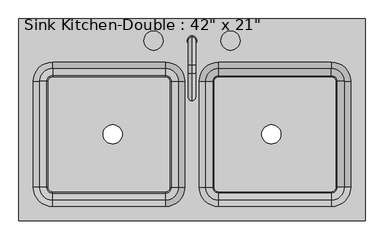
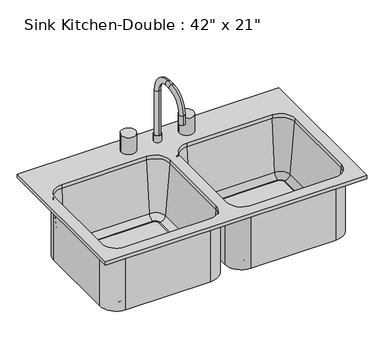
"""IFC4 building model written with IfcOpenShell, lengths in millimetres: flow terminal geometry."""

from ifc_helpers import new_model, si_unit, point, frame, frame_2d, origin, place, context, project, spatial, polyline, circle_curve, ellipse_curve, trimmed, segment, composite_curve, outline, extrude, source, transform, mapped, element, save
from ifc_brep_helpers import plane_surface, cylinder_surface, revolved_surface, advanced_brep


def flow_terminal_530ab181(model_context):
    return source(origin(), model_context, "Body", "SolidModel", [
        advanced_brep(
        [(2.9892406, 211.8954011, 927.1), (28.3892406, 211.8954011, 927.1), (15.6892406, 221.4204011, 1114.425), (15.6892406, 202.3704011, 1114.425), (15.6892406, 202.3704011, 952.5), (15.6892406, 221.4204011, 952.5), (15.6892406, 148.3954011, 1187.45), (15.6892406, 148.3954011, 1168.4), (15.6892406, 126.1704011, 1187.45), (15.6892406, 126.1704011, 1168.4), (15.6892406, 53.1454011, 1114.425), (15.6892406, 72.1954011, 1114.425), (15.6892406, 53.1454011, 1079.5), (15.6892406, 72.1954011, 1079.5), (2.9892406, 211.8954011, 952.5), (28.3892406, 211.8954011, 952.5)],
        [
            (0, 1, circle_curve(frame((15.6892406, 211.8954011, 927.1), z_axis=(0.0, 0.0, -1.0), x_axis=(1.0, 0.0, 0.0)), 12.7)),
            (1, 0, circle_curve(frame((15.6892406, 211.8954011, 927.1), z_axis=(0.0, 0.0, -1.0), x_axis=(1.0, 0.0, 0.0)), 12.7)),
            (2, 3, circle_curve(frame((15.6892406, 211.8954011, 1114.425), z_axis=(0.0, 0.0, -1.0), x_axis=(0.0, -1.0, 0.0)), 9.525)),
            (3, 4),
            (4, 5, circle_curve(frame((15.6892406, 211.8954011, 952.5), z_axis=(0.0, 0.0, 1.0), x_axis=(0.0, -1.0, 0.0)), 9.525)),
            (5, 2),
            (3, 2, circle_curve(frame((15.6892406, 211.8954011, 1114.425), z_axis=(0.0, 0.0, -1.0), x_axis=(0.0, -1.0, 0.0)), 9.525)),
            (5, 4, circle_curve(frame((15.6892406, 211.8954011, 952.5), z_axis=(0.0, 0.0, 1.0), x_axis=(0.0, -1.0, 0.0)), 9.525)),
            (2, 6, circle_curve(frame((15.6892406, 148.3954011, 1114.425), z_axis=(1.0, 0.0, 0.0), x_axis=(0.0, 1.0, 0.0)), 73.025)),
            (6, 7, circle_curve(frame((15.6892406, 148.3954011, 1177.925), z_axis=(0.0, 1.0, 0.0), x_axis=(0.0, 0.0, -1.0)), 9.525)),
            (7, 3, circle_curve(frame((15.6892406, 148.3954011, 1114.425), z_axis=(-1.0, 0.0, 0.0), x_axis=(0.0, 1.0, 0.0)), 53.975)),
            (7, 6, circle_curve(frame((15.6892406, 148.3954011, 1177.925), z_axis=(0.0, 1.0, 0.0), x_axis=(0.0, 0.0, -1.0)), 9.525)),
            (6, 8),
            (8, 9, circle_curve(frame((15.6892406, 126.1704011, 1177.925), z_axis=(0.0, 1.0, 0.0), x_axis=(0.0, 0.0, -1.0)), 9.525)),
            (9, 7),
            (9, 8, circle_curve(frame((15.6892406, 126.1704011, 1177.925), z_axis=(0.0, 1.0, 0.0), x_axis=(0.0, 0.0, -1.0)), 9.525)),
            (8, 10, circle_curve(frame((15.6892406, 126.1704011, 1114.425), z_axis=(1.0, 0.0, 0.0), x_axis=(0.0, 0.0, 1.0)), 73.025)),
            (10, 11, circle_curve(frame((15.6892406, 62.6704011, 1114.425), z_axis=(0.0, 0.0, 1.0), x_axis=(0.0, 1.0, 0.0)), 9.525)),
            (11, 9, circle_curve(frame((15.6892406, 126.1704011, 1114.425), z_axis=(-1.0, 0.0, 0.0), x_axis=(0.0, 0.0, 1.0)), 53.975)),
            (11, 10, circle_curve(frame((15.6892406, 62.6704011, 1114.425), z_axis=(0.0, 0.0, 1.0), x_axis=(0.0, 1.0, 0.0)), 9.525)),
            (12, 13, circle_curve(frame((15.6892406, 62.6704011, 1079.5), z_axis=(0.0, 0.0, -1.0), x_axis=(0.0, 1.0, 0.0)), 9.525)),
            (13, 12, circle_curve(frame((15.6892406, 62.6704011, 1079.5), z_axis=(0.0, 0.0, -1.0), x_axis=(0.0, 1.0, 0.0)), 9.525)),
            (10, 12),
            (13, 11),
            (14, 15, circle_curve(frame((15.6892406, 211.8954011, 952.5), z_axis=(0.0, 0.0, 1.0), x_axis=(1.0, 0.0, 0.0)), 12.7)),
            (15, 14, circle_curve(frame((15.6892406, 211.8954011, 952.5), z_axis=(0.0, 0.0, 1.0), x_axis=(1.0, 0.0, 0.0)), 12.7)),
            (14, 0),
            (1, 15),
        ],
        [
            plane_surface(frame((15.6892406, 202.3704011, 927.1), z_axis=(0.0, 0.0, -1.0), x_axis=(1.0, 0.0, 0.0))),
            cylinder_surface(frame((15.6892406, 211.8954011, 927.1), z_axis=(0.0, 0.0, -1.0), x_axis=(0.0, -1.0, 0.0)), 9.525),
            revolved_surface(trimmed(ellipse_curve(frame((15.6892406, 211.8954011, 1114.425), z_axis=(0.0, 0.0, -1.0), x_axis=(0.0, -1.0, 0.0)), 9.525, 9.525), [point((15.6892406, 221.4204011, 1114.425))], [point((15.6892406, 202.3704011, 1114.425))], True, "CARTESIAN"), (15.6892406, 148.3954011, 1114.425), (1.0, 0.0, 0.0)),
            revolved_surface(trimmed(ellipse_curve(frame((15.6892406, 211.8954011, 1114.425), z_axis=(0.0, 0.0, -1.0), x_axis=(0.0, -1.0, 0.0)), 9.525, 9.525), [point((15.6892406, 202.3704011, 1114.425))], [point((15.6892406, 221.4204011, 1114.425))], True, "CARTESIAN"), (15.6892406, 148.3954011, 1114.425), (1.0, 0.0, 0.0)),
            cylinder_surface(frame((15.6892406, 148.3954011, 1177.925), z_axis=(0.0, 1.0, 0.0), x_axis=(0.0, 0.0, -1.0)), 9.525),
            revolved_surface(trimmed(ellipse_curve(frame((15.6892406, 126.1704011, 1177.925), z_axis=(0.0, 1.0, 0.0), x_axis=(0.0, 0.0, -1.0)), 9.525, 9.525), [point((15.6892406, 126.1704011, 1187.45))], [point((15.6892406, 126.1704011, 1168.4))], True, "CARTESIAN"), (15.6892406, 126.1704011, 1114.425), (1.0, 0.0, 0.0)),
            revolved_surface(trimmed(ellipse_curve(frame((15.6892406, 126.1704011, 1177.925), z_axis=(0.0, 1.0, 0.0), x_axis=(0.0, 0.0, -1.0)), 9.525, 9.525), [point((15.6892406, 126.1704011, 1168.4))], [point((15.6892406, 126.1704011, 1187.45))], True, "CARTESIAN"), (15.6892406, 126.1704011, 1114.425), (1.0, 0.0, 0.0)),
            plane_surface(frame((15.6892406, 53.1454011, 1079.5), z_axis=(0.0, 0.0, -1.0), x_axis=(-1.0, 0.0, 0.0))),
            cylinder_surface(frame((15.6892406, 62.6704011, 1114.425), z_axis=(0.0, 0.0, 1.0), x_axis=(0.0, 1.0, 0.0)), 9.525),
            plane_surface(frame((28.3892406, 211.8954011, 952.5), z_axis=(0.0, 0.0, 1.0), x_axis=(0.0, 1.0, 0.0))),
            cylinder_surface(frame((15.6892406, 211.8954011, 927.1), z_axis=(0.0, 0.0, 1.0), x_axis=(1.0, 0.0, 0.0)), 12.7),
        ],
        [
            (0, [[1, 2]]),
            (1, [[3, 4, 5, 6]]),
            (1, [[7, -6, 8, -4]]),
            (2, [[-3, 9, 10, 11]]),
            (3, [[-7, -11, 12, -9]]),
            (4, [[-10, 13, 14, 15]]),
            (4, [[-12, -15, 16, -13]]),
            (5, [[-14, 17, 18, 19]]),
            (6, [[-16, -19, 20, -17]]),
            (7, [[21, 22]]),
            (8, [[-18, 23, -22, 24]]),
            (8, [[-20, -24, -21, -23]]),
            (9, [[25, 26], [-5, -8]]),
            (10, [[-25, 27, -2, 28]]),
            (10, [[-26, -28, -1, -27]]),
        ],
    ),
        advanced_brep(
        [(472.8892406, 269.0454011, 927.1), (-441.5107594, 269.0454011, 927.1), (-441.5107594, -264.3545989, 927.1), (472.8892406, -264.3545989, 927.1), (-54.1607594, 154.7454011, 927.1), (-3.3607594, 103.9454011, 927.1), (-3.3607594, -175.4545989, 927.1), (-54.1607594, -226.2545989, 927.1), (-352.6107594, -226.2545989, 927.1), (-403.4107594, -175.4545989, 927.1), (-403.4107594, 103.9454011, 927.1), (-352.6107594, 154.7454011, 927.1), (85.5392406, -226.2545989, 927.1), (34.7392406, -175.4545989, 927.1), (34.7392406, 103.9454011, 927.1), (85.5392406, 154.7454011, 927.1), (383.9892406, 154.7454011, 927.1), (434.7892406, 103.9454011, 927.1), (434.7892406, -175.4545989, 927.1), (383.9892406, -226.2545989, 927.1), (472.8892406, 269.0454011, 914.4), (472.8892406, -264.3545989, 914.4), (-441.5107594, -264.3545989, 914.4), (-441.5107594, 269.0454011, 914.4), (85.5392406, 161.0954011, 914.4), (28.3892406, 103.9454011, 914.4), (28.3892406, -175.4545989, 914.4), (85.5392406, -232.6045989, 914.4), (383.9892406, -232.6045989, 914.4), (441.1392406, -175.4545989, 914.4), (441.1392406, 103.9454011, 914.4), (383.9892406, 161.0954011, 914.4), (2.9892406, 103.9454011, 914.4), (-54.1607594, 161.0954011, 914.4), (-352.6107594, 161.0954011, 914.4), (-409.7607594, 103.9454011, 914.4), (-409.7607594, -175.4545989, 914.4), (-352.6107594, -232.6045989, 914.4), (-54.1607594, -232.6045989, 914.4), (2.9892406, -175.4545989, 914.4), (-54.1607594, 154.7454011, 914.4), (-3.3607594, 103.9454011, 914.4), (-3.3607594, -175.4545989, 914.4), (-54.1607594, -226.2545989, 914.4), (-352.6107594, -226.2545989, 914.4), (-403.4107594, -175.4545989, 914.4), (-403.4107594, 103.9454011, 914.4), (-352.6107594, 154.7454011, 914.4), (85.5392406, -226.2545989, 914.4), (34.7392406, -175.4545989, 914.4), (34.7392406, 103.9454011, 914.4), (85.5392406, 154.7454011, 914.4), (383.9892406, 154.7454011, 914.4), (434.7892406, 103.9454011, 914.4), (434.7892406, -175.4545989, 914.4), (383.9892406, -226.2545989, 914.4), (51.2733134, 103.9454011, 725.4146831), (85.5392406, 138.2113283, 725.4146831), (70.2508224, 103.9454011, 708.025), (85.5392406, 119.2338193, 708.025), (72.8392406, 103.9454011, 708.025), (85.5392406, 116.6454011, 708.025), (72.8392406, 103.9454011, 698.5), (85.5392406, 116.6454011, 698.5), (28.3892406, 103.9454011, 698.5), (85.5392406, 161.0954011, 698.5), (51.2733134, -175.4545989, 725.4146831), (70.2508224, -175.4545989, 708.025), (72.8392406, -175.4545989, 708.025), (72.8392406, -175.4545989, 698.5), (28.3892406, -175.4545989, 698.5), (85.5392406, -209.7205261, 725.4146831), (85.5392406, -190.7430171, 708.025), (85.5392406, -188.1545989, 708.025), (85.5392406, -188.1545989, 698.5), (85.5392406, -232.6045989, 698.5), (383.9892406, -209.7205261, 725.4146831), (383.9892406, -190.7430171, 708.025), (383.9892406, -188.1545989, 708.025), (383.9892406, -188.1545989, 698.5), (383.9892406, -232.6045989, 698.5), (418.2551678, -175.4545989, 725.4146831), (399.2776588, -175.4545989, 708.025), (396.6892406, -175.4545989, 708.025), (396.6892406, -175.4545989, 698.5), (441.1392406, -175.4545989, 698.5), (418.2551678, 103.9454011, 725.4146831), (399.2776588, 103.9454011, 708.025), (396.6892406, 103.9454011, 708.025), (396.6892406, 103.9454011, 698.5), (441.1392406, 103.9454011, 698.5), (383.9892406, 138.2113283, 725.4146831), (383.9892406, 119.2338193, 708.025), (383.9892406, 116.6454011, 708.025), (383.9892406, 116.6454011, 698.5), (383.9892406, 161.0954011, 698.5), (2.9892406, 103.9454011, 698.5), (-54.1607594, 161.0954011, 698.5), (-41.4607594, 103.9454011, 698.5), (-54.1607594, 116.6454011, 698.5), (-41.4607594, 103.9454011, 708.025), (-54.1607594, 116.6454011, 708.025), (-38.8723412, 103.9454011, 708.025), (-54.1607594, 119.2338193, 708.025), (-19.8948322, 103.9454011, 725.4146831), (-54.1607594, 138.2113283, 725.4146831), (2.9892406, -175.4545989, 698.5), (-41.4607594, -175.4545989, 698.5), (-41.4607594, -175.4545989, 708.025), (-38.8723412, -175.4545989, 708.025), (-19.8948322, -175.4545989, 725.4146831), (-54.1607594, -232.6045989, 698.5), (-54.1607594, -188.1545989, 698.5), (-54.1607594, -188.1545989, 708.025), (-54.1607594, -190.7430171, 708.025), (-54.1607594, -209.7205261, 725.4146831), (-352.6107594, -232.6045989, 698.5), (-352.6107594, -188.1545989, 698.5), (-352.6107594, -188.1545989, 708.025), (-352.6107594, -190.7430171, 708.025), (-352.6107594, -209.7205261, 725.4146831), (-409.7607594, -175.4545989, 698.5), (-365.3107594, -175.4545989, 698.5), (-365.3107594, -175.4545989, 708.025), (-367.8991776, -175.4545989, 708.025), (-386.8766866, -175.4545989, 725.4146831), (-409.7607594, 103.9454011, 698.5), (-365.3107594, 103.9454011, 698.5), (-365.3107594, 103.9454011, 708.025), (-367.8991776, 103.9454011, 708.025), (-386.8766866, 103.9454011, 725.4146831), (-352.6107594, 161.0954011, 698.5), (-352.6107594, 116.6454011, 698.5), (-352.6107594, 116.6454011, 708.025), (-352.6107594, 119.2338193, 708.025), (-352.6107594, 138.2113283, 725.4146831)],
        [
            (0, 1),
            (1, 2),
            (2, 3),
            (3, 0),
            (4, 5, circle_curve(frame((-54.1607594, 103.9454011, 927.1), z_axis=(0.0, 0.0, -1.0), x_axis=(1.0, 0.0, 0.0)), 50.8)),
            (5, 6),
            (6, 7, circle_curve(frame((-54.1607594, -175.4545989, 927.1), z_axis=(0.0, 0.0, -1.0), x_axis=(1.0, 0.0, 0.0)), 50.8)),
            (7, 8),
            (8, 9, circle_curve(frame((-352.6107594, -175.4545989, 927.1), z_axis=(0.0, 0.0, -1.0), x_axis=(1.0, 0.0, 0.0)), 50.8)),
            (9, 10),
            (10, 11, circle_curve(frame((-352.6107594, 103.9454011, 927.1), z_axis=(0.0, 0.0, -1.0), x_axis=(1.0, 0.0, 0.0)), 50.8)),
            (11, 4),
            (12, 13, circle_curve(frame((85.5392406, -175.4545989, 927.1), z_axis=(0.0, 0.0, -1.0), x_axis=(1.0, 0.0, 0.0)), 50.8)),
            (13, 14),
            (14, 15, circle_curve(frame((85.5392406, 103.9454011, 927.1), z_axis=(0.0, 0.0, -1.0), x_axis=(1.0, 0.0, 0.0)), 50.8)),
            (15, 16),
            (16, 17, circle_curve(frame((383.9892406, 103.9454011, 927.1), z_axis=(0.0, 0.0, -1.0), x_axis=(1.0, 0.0, 0.0)), 50.8)),
            (17, 18),
            (18, 19, circle_curve(frame((383.9892406, -175.4545989, 927.1), z_axis=(0.0, 0.0, -1.0), x_axis=(1.0, 0.0, 0.0)), 50.8)),
            (19, 12),
            (20, 21),
            (21, 22),
            (22, 23),
            (23, 20),
            (24, 25, circle_curve(frame((85.5392406, 103.9454011, 914.4), z_axis=(0.0, 0.0, 1.0), x_axis=(0.0, 1.0, 0.0)), 57.15)),
            (25, 26),
            (26, 27, circle_curve(frame((85.5392406, -175.4545989, 914.4), z_axis=(0.0, 0.0, 1.0), x_axis=(-1.0, 0.0, 0.0)), 57.15)),
            (27, 28),
            (28, 29, circle_curve(frame((383.9892406, -175.4545989, 914.4), z_axis=(0.0, 0.0, 1.0), x_axis=(0.0, -1.0, 0.0)), 57.15)),
            (29, 30),
            (30, 31, circle_curve(frame((383.9892406, 103.9454011, 914.4), z_axis=(0.0, 0.0, 1.0), x_axis=(1.0, 0.0, 0.0)), 57.15)),
            (31, 24),
            (32, 33, circle_curve(frame((-54.1607594, 103.9454011, 914.4), z_axis=(0.0, 0.0, 1.0), x_axis=(0.0, 1.0, 0.0)), 57.15)),
            (33, 34),
            (34, 35, circle_curve(frame((-352.6107594, 103.9454011, 914.4), z_axis=(0.0, 0.0, 1.0), x_axis=(-1.0, 0.0, 0.0)), 57.15)),
            (35, 36),
            (36, 37, circle_curve(frame((-352.6107594, -175.4545989, 914.4), z_axis=(0.0, 0.0, 1.0), x_axis=(0.0, -1.0, 0.0)), 57.15)),
            (37, 38),
            (38, 39, circle_curve(frame((-54.1607594, -175.4545989, 914.4), z_axis=(0.0, 0.0, 1.0), x_axis=(1.0, 0.0, 0.0)), 57.15)),
            (39, 32),
            (0, 20),
            (23, 1),
            (22, 2),
            (21, 3),
            (4, 40),
            (40, 41, circle_curve(frame((-54.1607594, 103.9454011, 914.4), z_axis=(0.0, 0.0, -1.0), x_axis=(1.0, 0.0, 0.0)), 50.8)),
            (41, 5),
            (41, 42),
            (42, 6),
            (42, 43, circle_curve(frame((-54.1607594, -175.4545989, 914.4), z_axis=(0.0, 0.0, -1.0), x_axis=(1.0, 0.0, 0.0)), 50.8)),
            (43, 7),
            (43, 44),
            (44, 8),
            (44, 45, circle_curve(frame((-352.6107594, -175.4545989, 914.4), z_axis=(0.0, 0.0, -1.0), x_axis=(1.0, 0.0, 0.0)), 50.8)),
            (45, 9),
            (45, 46),
            (46, 10),
            (46, 47, circle_curve(frame((-352.6107594, 103.9454011, 914.4), z_axis=(0.0, 0.0, -1.0), x_axis=(1.0, 0.0, 0.0)), 50.8)),
            (47, 11),
            (47, 40),
            (12, 48),
            (48, 49, circle_curve(frame((85.5392406, -175.4545989, 914.4), z_axis=(0.0, 0.0, -1.0), x_axis=(1.0, 0.0, 0.0)), 50.8)),
            (49, 13),
            (49, 50),
            (50, 14),
            (50, 51, circle_curve(frame((85.5392406, 103.9454011, 914.4), z_axis=(0.0, 0.0, -1.0), x_axis=(1.0, 0.0, 0.0)), 50.8)),
            (51, 15),
            (51, 52),
            (52, 16),
            (52, 53, circle_curve(frame((383.9892406, 103.9454011, 914.4), z_axis=(0.0, 0.0, -1.0), x_axis=(1.0, 0.0, 0.0)), 50.8)),
            (53, 17),
            (53, 54),
            (54, 18),
            (54, 55, circle_curve(frame((383.9892406, -175.4545989, 914.4), z_axis=(0.0, 0.0, -1.0), x_axis=(1.0, 0.0, 0.0)), 50.8)),
            (55, 19),
            (55, 48),
            (56, 57, circle_curve(frame((85.5392406, 103.9454011, 725.4146831), z_axis=(0.0, 0.0, -1.0), x_axis=(0.0, 1.0, 0.0)), 34.2659272)),
            (57, 51),
            (50, 56),
            (56, 58, circle_curve(frame((70.2508224, 103.9454011, 727.075), z_axis=(0.0, -1.0, 0.0), x_axis=(1.0, 0.0, 0.0)), 19.05)),
            (58, 59, circle_curve(frame((85.5392406, 103.9454011, 708.025), z_axis=(0.0, 0.0, -1.0), x_axis=(0.0, 1.0, 0.0)), 15.2884182)),
            (59, 57, circle_curve(frame((85.5392406, 119.2338193, 727.075), z_axis=(1.0, 0.0, 0.0), x_axis=(0.0, -1.0, 0.0)), 19.05)),
            (58, 60),
            (60, 61, circle_curve(frame((85.5392406, 103.9454011, 708.025), z_axis=(0.0, 0.0, -1.0), x_axis=(0.0, 1.0, 0.0)), 12.7)),
            (61, 59),
            (60, 62),
            (62, 63, circle_curve(frame((85.5392406, 103.9454011, 698.5), z_axis=(0.0, 0.0, -1.0), x_axis=(0.0, 1.0, 0.0)), 12.7)),
            (63, 61),
            (62, 64),
            (64, 65, circle_curve(frame((85.5392406, 103.9454011, 698.5), z_axis=(0.0, 0.0, -1.0), x_axis=(0.0, 1.0, 0.0)), 57.15)),
            (65, 63),
            (64, 25),
            (24, 65),
            (49, 66),
            (66, 56),
            (66, 67, circle_curve(frame((70.2508224, -175.4545989, 727.075), z_axis=(0.0, -1.0, 0.0), x_axis=(1.0, 0.0, 0.0)), 19.05)),
            (67, 58),
            (67, 68),
            (68, 60),
            (68, 69),
            (69, 62),
            (69, 70),
            (70, 64),
            (70, 26),
            (48, 71),
            (71, 66, circle_curve(frame((85.5392406, -175.4545989, 725.4146831), z_axis=(0.0, 0.0, -1.0), x_axis=(-1.0, 0.0, 0.0)), 34.2659272)),
            (71, 72, circle_curve(frame((85.5392406, -190.7430171, 727.075), z_axis=(1.0, 0.0, 0.0), x_axis=(0.0, 1.0, 0.0)), 19.05)),
            (72, 67, circle_curve(frame((85.5392406, -175.4545989, 708.025), z_axis=(0.0, 0.0, -1.0), x_axis=(-1.0, 0.0, 0.0)), 15.2884182)),
            (72, 73),
            (73, 68, circle_curve(frame((85.5392406, -175.4545989, 708.025), z_axis=(0.0, 0.0, -1.0), x_axis=(-1.0, 0.0, 0.0)), 12.7)),
            (73, 74),
            (74, 69, circle_curve(frame((85.5392406, -175.4545989, 698.5), z_axis=(0.0, 0.0, -1.0), x_axis=(-1.0, 0.0, 0.0)), 12.7)),
            (74, 75),
            (75, 70, circle_curve(frame((85.5392406, -175.4545989, 698.5), z_axis=(0.0, 0.0, -1.0), x_axis=(-1.0, 0.0, 0.0)), 57.15)),
            (75, 27),
            (55, 76),
            (76, 71),
            (76, 77, circle_curve(frame((383.9892406, -190.7430171, 727.075), z_axis=(1.0, 0.0, 0.0), x_axis=(0.0, 1.0, 0.0)), 19.05)),
            (77, 72),
            (77, 78),
            (78, 73),
            (78, 79),
            (79, 74),
            (79, 80),
            (80, 75),
            (80, 28),
            (54, 81),
            (81, 76, circle_curve(frame((383.9892406, -175.4545989, 725.4146831), z_axis=(0.0, 0.0, -1.0), x_axis=(0.0, -1.0, 0.0)), 34.2659272)),
            (81, 82, circle_curve(frame((399.2776588, -175.4545989, 727.075), z_axis=(0.0, 1.0, 0.0), x_axis=(-1.0, 0.0, 0.0)), 19.05)),
            (82, 77, circle_curve(frame((383.9892406, -175.4545989, 708.025), z_axis=(0.0, 0.0, -1.0), x_axis=(0.0, -1.0, 0.0)), 15.2884182)),
            (82, 83),
            (83, 78, circle_curve(frame((383.9892406, -175.4545989, 708.025), z_axis=(0.0, 0.0, -1.0), x_axis=(0.0, -1.0, 0.0)), 12.7)),
            (83, 84),
            (84, 79, circle_curve(frame((383.9892406, -175.4545989, 698.5), z_axis=(0.0, 0.0, -1.0), x_axis=(0.0, -1.0, 0.0)), 12.7)),
            (84, 85),
            (85, 80, circle_curve(frame((383.9892406, -175.4545989, 698.5), z_axis=(0.0, 0.0, -1.0), x_axis=(0.0, -1.0, 0.0)), 57.15)),
            (85, 29),
            (53, 86),
            (86, 81),
            (86, 87, circle_curve(frame((399.2776588, 103.9454011, 727.075), z_axis=(0.0, 1.0, 0.0), x_axis=(-1.0, 0.0, 0.0)), 19.05)),
            (87, 82),
            (87, 88),
            (88, 83),
            (88, 89),
            (89, 84),
            (89, 90),
            (90, 85),
            (90, 30),
            (52, 91),
            (91, 86, circle_curve(frame((383.9892406, 103.9454011, 725.4146831), z_axis=(0.0, 0.0, -1.0), x_axis=(1.0, 0.0, 0.0)), 34.2659272)),
            (91, 92, circle_curve(frame((383.9892406, 119.2338193, 727.075), z_axis=(-1.0, 0.0, 0.0), x_axis=(0.0, -1.0, 0.0)), 19.05)),
            (92, 87, circle_curve(frame((383.9892406, 103.9454011, 708.025), z_axis=(0.0, 0.0, -1.0), x_axis=(1.0, 0.0, 0.0)), 15.2884182)),
            (92, 93),
            (93, 88, circle_curve(frame((383.9892406, 103.9454011, 708.025), z_axis=(0.0, 0.0, -1.0), x_axis=(1.0, 0.0, 0.0)), 12.7)),
            (93, 94),
            (94, 89, circle_curve(frame((383.9892406, 103.9454011, 698.5), z_axis=(0.0, 0.0, -1.0), x_axis=(1.0, 0.0, 0.0)), 12.7)),
            (94, 95),
            (95, 90, circle_curve(frame((383.9892406, 103.9454011, 698.5), z_axis=(0.0, 0.0, -1.0), x_axis=(1.0, 0.0, 0.0)), 57.15)),
            (95, 31),
            (57, 91),
            (59, 92),
            (61, 93),
            (63, 94),
            (65, 95),
            (96, 97, circle_curve(frame((-54.1607594, 103.9454011, 698.5), z_axis=(0.0, 0.0, 1.0), x_axis=(0.0, 1.0, 0.0)), 57.15)),
            (97, 33),
            (32, 96),
            (96, 98),
            (98, 99, circle_curve(frame((-54.1607594, 103.9454011, 698.5), z_axis=(0.0, 0.0, 1.0), x_axis=(0.0, 1.0, 0.0)), 12.7)),
            (99, 97),
            (98, 100),
            (100, 101, circle_curve(frame((-54.1607594, 103.9454011, 708.025), z_axis=(0.0, 0.0, 1.0), x_axis=(0.0, 1.0, 0.0)), 12.7)),
            (101, 99),
            (100, 102),
            (102, 103, circle_curve(frame((-54.1607594, 103.9454011, 708.025), z_axis=(0.0, 0.0, 1.0), x_axis=(0.0, 1.0, 0.0)), 15.2884182)),
            (103, 101),
            (102, 104, circle_curve(frame((-38.8723412, 103.9454011, 727.075), z_axis=(0.0, -1.0, 0.0), x_axis=(1.0, 0.0, 0.0)), 19.05)),
            (104, 105, circle_curve(frame((-54.1607594, 103.9454011, 725.4146831), z_axis=(0.0, 0.0, 1.0), x_axis=(0.0, 1.0, 0.0)), 34.2659272)),
            (105, 103, circle_curve(frame((-54.1607594, 119.2338193, 727.075), z_axis=(-1.0, 0.0, 0.0), x_axis=(0.0, 1.0, 0.0)), 19.05)),
            (104, 41),
            (40, 105),
            (39, 106),
            (106, 96),
            (106, 107),
            (107, 98),
            (107, 108),
            (108, 100),
            (108, 109),
            (109, 102),
            (109, 110, circle_curve(frame((-38.8723412, -175.4545989, 727.075), z_axis=(0.0, -1.0, 0.0), x_axis=(1.0, 0.0, 0.0)), 19.05)),
            (110, 104),
            (110, 42),
            (38, 111),
            (111, 106, circle_curve(frame((-54.1607594, -175.4545989, 698.5), z_axis=(0.0, 0.0, 1.0), x_axis=(1.0, 0.0, 0.0)), 57.15)),
            (111, 112),
            (112, 107, circle_curve(frame((-54.1607594, -175.4545989, 698.5), z_axis=(0.0, 0.0, 1.0), x_axis=(1.0, 0.0, 0.0)), 12.7)),
            (112, 113),
            (113, 108, circle_curve(frame((-54.1607594, -175.4545989, 708.025), z_axis=(0.0, 0.0, 1.0), x_axis=(1.0, 0.0, 0.0)), 12.7)),
            (113, 114),
            (114, 109, circle_curve(frame((-54.1607594, -175.4545989, 708.025), z_axis=(0.0, 0.0, 1.0), x_axis=(1.0, 0.0, 0.0)), 15.2884182)),
            (114, 115, circle_curve(frame((-54.1607594, -190.7430171, 727.075), z_axis=(-1.0, 0.0, 0.0), x_axis=(0.0, -1.0, 0.0)), 19.05)),
            (115, 110, circle_curve(frame((-54.1607594, -175.4545989, 725.4146831), z_axis=(0.0, 0.0, 1.0), x_axis=(1.0, 0.0, 0.0)), 34.2659272)),
            (115, 43),
            (37, 116),
            (116, 111),
            (116, 117),
            (117, 112),
            (117, 118),
            (118, 113),
            (118, 119),
            (119, 114),
            (119, 120, circle_curve(frame((-352.6107594, -190.7430171, 727.075), z_axis=(-1.0, 0.0, 0.0), x_axis=(0.0, -1.0, 0.0)), 19.05)),
            (120, 115),
            (120, 44),
            (36, 121),
            (121, 116, circle_curve(frame((-352.6107594, -175.4545989, 698.5), z_axis=(0.0, 0.0, 1.0), x_axis=(0.0, -1.0, 0.0)), 57.15)),
            (121, 122),
            (122, 117, circle_curve(frame((-352.6107594, -175.4545989, 698.5), z_axis=(0.0, 0.0, 1.0), x_axis=(0.0, -1.0, 0.0)), 12.7)),
            (122, 123),
            (123, 118, circle_curve(frame((-352.6107594, -175.4545989, 708.025), z_axis=(0.0, 0.0, 1.0), x_axis=(0.0, -1.0, 0.0)), 12.7)),
            (123, 124),
            (124, 119, circle_curve(frame((-352.6107594, -175.4545989, 708.025), z_axis=(0.0, 0.0, 1.0), x_axis=(0.0, -1.0, 0.0)), 15.2884182)),
            (124, 125, circle_curve(frame((-367.8991776, -175.4545989, 727.075), z_axis=(0.0, 1.0, 0.0), x_axis=(-1.0, 0.0, 0.0)), 19.05)),
            (125, 120, circle_curve(frame((-352.6107594, -175.4545989, 725.4146831), z_axis=(0.0, 0.0, 1.0), x_axis=(0.0, -1.0, 0.0)), 34.2659272)),
            (125, 45),
            (35, 126),
            (126, 121),
            (126, 127),
            (127, 122),
            (127, 128),
            (128, 123),
            (128, 129),
            (129, 124),
            (129, 130, circle_curve(frame((-367.8991776, 103.9454011, 727.075), z_axis=(0.0, 1.0, 0.0), x_axis=(-1.0, 0.0, 0.0)), 19.05)),
            (130, 125),
            (130, 46),
            (34, 131),
            (131, 126, circle_curve(frame((-352.6107594, 103.9454011, 698.5), z_axis=(0.0, 0.0, 1.0), x_axis=(-1.0, 0.0, 0.0)), 57.15)),
            (131, 132),
            (132, 127, circle_curve(frame((-352.6107594, 103.9454011, 698.5), z_axis=(0.0, 0.0, 1.0), x_axis=(-1.0, 0.0, 0.0)), 12.7)),
            (132, 133),
            (133, 128, circle_curve(frame((-352.6107594, 103.9454011, 708.025), z_axis=(0.0, 0.0, 1.0), x_axis=(-1.0, 0.0, 0.0)), 12.7)),
            (133, 134),
            (134, 129, circle_curve(frame((-352.6107594, 103.9454011, 708.025), z_axis=(0.0, 0.0, 1.0), x_axis=(-1.0, 0.0, 0.0)), 15.2884182)),
            (134, 135, circle_curve(frame((-352.6107594, 119.2338193, 727.075), z_axis=(1.0, 0.0, 0.0), x_axis=(0.0, 1.0, 0.0)), 19.05)),
            (135, 130, circle_curve(frame((-352.6107594, 103.9454011, 725.4146831), z_axis=(0.0, 0.0, 1.0), x_axis=(-1.0, 0.0, 0.0)), 34.2659272)),
            (135, 47),
            (97, 131),
            (99, 132),
            (101, 133),
            (103, 134),
            (105, 135),
        ],
        [
            plane_surface(frame((-441.5107594, 269.0454011, 927.1), z_axis=(0.0, 0.0, 1.0), x_axis=(-1.0, 0.0, 0.0))),
            plane_surface(frame((-441.5107594, 269.0454011, 914.4), z_axis=(0.0, 0.0, -1.0), x_axis=(1.0, 0.0, 0.0))),
            plane_surface(frame((472.8892406, 269.0454011, 927.1), z_axis=(0.0, 1.0, 0.0), x_axis=(0.0, 0.0, -1.0))),
            plane_surface(frame((-441.5107594, 269.0454011, 927.1), z_axis=(-1.0, 0.0, 0.0), x_axis=(0.0, 0.0, -1.0))),
            plane_surface(frame((-441.5107594, -264.3545989, 927.1), z_axis=(0.0, -1.0, 0.0), x_axis=(0.0, 0.0, -1.0))),
            plane_surface(frame((472.8892406, -264.3545989, 927.1), z_axis=(1.0, 0.0, 0.0), x_axis=(0.0, 0.0, -1.0))),
            revolved_surface(polyline([(-3.3607594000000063, 103.9454011, 914.4), (-3.3607594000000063, 103.9454011, 927.1)]), (-54.1607594, 103.9454011, 0.0), (0.0, 0.0, -1.0)),
            plane_surface(frame((-3.3607594, 103.9454011, 927.1), z_axis=(-1.0, 0.0, 0.0), x_axis=(0.0, 0.0, -1.0))),
            revolved_surface(polyline([(-3.3607594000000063, -175.4545989, 914.4), (-3.3607594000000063, -175.4545989, 927.1)]), (-54.1607594, -175.4545989, 0.0), (0.0, 0.0, -1.0)),
            plane_surface(frame((-54.1607594, -226.2545989, 927.1), z_axis=(0.0, 1.0, 0.0), x_axis=(0.0, 0.0, -1.0))),
            revolved_surface(polyline([(-301.8107594, -175.4545989, 914.4), (-301.8107594, -175.4545989, 927.1)]), (-352.6107594, -175.4545989, 0.0), (0.0, 0.0, -1.0)),
            plane_surface(frame((-403.4107594, -175.4545989, 927.1), z_axis=(1.0, 0.0, 0.0), x_axis=(0.0, 0.0, -1.0))),
            revolved_surface(polyline([(-301.8107594, 103.9454011, 914.4), (-301.8107594, 103.9454011, 927.1)]), (-352.6107594, 103.9454011, 0.0), (0.0, 0.0, -1.0)),
            plane_surface(frame((-352.6107594, 154.7454011, 927.1), z_axis=(0.0, -1.0, 0.0), x_axis=(0.0, 0.0, -1.0))),
            revolved_surface(polyline([(136.33924059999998, -175.4545989, 914.4), (136.33924059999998, -175.4545989, 927.1)]), (85.5392406, -175.4545989, 0.0), (0.0, 0.0, -1.0)),
            plane_surface(frame((34.7392406, -175.4545989, 927.1), z_axis=(1.0, 0.0, 0.0), x_axis=(0.0, 0.0, -1.0))),
            revolved_surface(polyline([(136.33924059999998, 103.9454011, 914.4), (136.33924059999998, 103.9454011, 927.1)]), (85.5392406, 103.9454011, 0.0), (0.0, 0.0, -1.0)),
            plane_surface(frame((85.5392406, 154.7454011, 927.1), z_axis=(0.0, -1.0, 0.0), x_axis=(0.0, 0.0, -1.0))),
            revolved_surface(polyline([(434.7892406, 103.9454011, 914.4), (434.7892406, 103.9454011, 927.1)]), (383.9892406, 103.9454011, 0.0), (0.0, 0.0, -1.0)),
            plane_surface(frame((434.7892406, 103.9454011, 927.1), z_axis=(-1.0, 0.0, 0.0), x_axis=(0.0, 0.0, -1.0))),
            revolved_surface(polyline([(434.7892406, -175.4545989, 914.4), (434.7892406, -175.4545989, 927.1)]), (383.9892406, -175.4545989, 0.0), (0.0, 0.0, -1.0)),
            plane_surface(frame((383.9892406, -226.2545989, 927.1), z_axis=(0.0, 1.0, 0.0), x_axis=(0.0, 0.0, -1.0))),
            revolved_surface(polyline([(85.5392406, 154.7454011, 914.4), (85.5392406, 138.2113283, 725.4146831)]), (85.5392406, 103.9454011, 0.0), (0.0, 0.0, 1.0)),
            revolved_surface(trimmed(ellipse_curve(frame((85.5392406, 119.2338193, 727.075), z_axis=(-1.0, 0.0, 0.0), x_axis=(0.0, -1.0, 0.0)), 19.05, 19.05), [point((85.5392406, 138.2113283, 725.4146831))], [point((85.5392406, 119.2338193, 708.025))], True, "CARTESIAN"), (85.5392406, 103.9454011, 0.0), (0.0, 0.0, 1.0)),
            plane_surface(frame((85.5392406, 103.9454011, 708.025), z_axis=(0.0, 0.0, 1.0), x_axis=(0.0, 1.0, 0.0))),
            revolved_surface(polyline([(85.5392406, 116.6454011, 708.025), (85.5392406, 116.6454011, 698.5)]), (85.5392406, 103.9454011, 0.0), (0.0, 0.0, 1.0)),
            plane_surface(frame((85.5392406, 103.9454011, 698.5), z_axis=(0.0, 0.0, -1.0), x_axis=(0.0, 1.0, 0.0))),
            cylinder_surface(frame((85.5392406, 103.9454011, 0.0), z_axis=(0.0, 0.0, 1.0), x_axis=(0.0, 1.0, 0.0)), 57.15),
            plane_surface(frame((34.7392406, 103.9454011, 914.4), z_axis=(0.996194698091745, 0.0, 0.08715574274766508), x_axis=(0.0, -1.0, 0.0))),
            revolved_surface(polyline([(89.3008224, -175.45459889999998, 727.075), (89.3008224, 103.9454011, 727.075)]), (70.2508224, 103.9454011, 727.075), (0.0, -1.0, 0.0)),
            plane_surface(frame((70.2508224, 103.9454011, 708.025), z_axis=(0.0, 0.0, 1.0), x_axis=(0.0, -1.0, 0.0))),
            plane_surface(frame((72.8392406, 103.9454011, 708.025), z_axis=(1.0, 0.0, 0.0), x_axis=(0.0, -1.0, 0.0))),
            plane_surface(frame((72.8392406, 103.9454011, 698.5), z_axis=(0.0, 0.0, -1.0), x_axis=(0.0, -1.0, 0.0))),
            plane_surface(frame((28.3892406, 103.9454011, 698.5), z_axis=(-1.0, 0.0, 0.0), x_axis=(0.0, -1.0, 0.0))),
            revolved_surface(polyline([(34.7392406, -175.4545989, 914.4), (51.2733134, -175.4545989, 725.4146831)]), (85.5392406, -175.4545989, 0.0), (0.0, 0.0, 1.0)),
            revolved_surface(trimmed(ellipse_curve(frame((70.2508224, -175.4545989, 727.075), z_axis=(0.0, -1.0, 0.0), x_axis=(1.0, 0.0, 0.0)), 19.05, 19.05), [point((51.2733134, -175.4545989, 725.4146831))], [point((70.2508224, -175.4545989, 708.025))], True, "CARTESIAN"), (85.5392406, -175.4545989, 0.0), (0.0, 0.0, 1.0)),
            plane_surface(frame((85.5392406, -175.4545989, 708.025), z_axis=(0.0, 0.0, 1.0), x_axis=(-1.0, 0.0, 0.0))),
            revolved_surface(polyline([(72.8392406, -175.4545989, 708.025), (72.8392406, -175.4545989, 698.5)]), (85.5392406, -175.4545989, 0.0), (0.0, 0.0, 1.0)),
            plane_surface(frame((85.5392406, -175.4545989, 698.5), z_axis=(0.0, 0.0, -1.0), x_axis=(-1.0, 0.0, 0.0))),
            cylinder_surface(frame((85.5392406, -175.4545989, 0.0), z_axis=(0.0, 0.0, 1.0), x_axis=(-1.0, 0.0, 0.0)), 57.15),
            plane_surface(frame((85.5392406, -226.2545989, 914.4), z_axis=(0.0, 0.996194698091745, 0.08715574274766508), x_axis=(1.0, 0.0, 0.0))),
            revolved_surface(polyline([(383.9892406, -171.6930171, 727.075), (85.5392406, -171.6930171, 727.075)]), (85.5392406, -190.7430171, 727.075), (1.0, 0.0, 0.0)),
            plane_surface(frame((85.5392406, -190.7430171, 708.025), z_axis=(0.0, 0.0, 1.0), x_axis=(1.0, 0.0, 0.0))),
            plane_surface(frame((85.5392406, -188.1545989, 708.025), z_axis=(0.0, 1.0, 0.0), x_axis=(1.0, 0.0, 0.0))),
            plane_surface(frame((85.5392406, -188.1545989, 698.5), z_axis=(0.0, 0.0, -1.0), x_axis=(1.0, 0.0, 0.0))),
            plane_surface(frame((85.5392406, -232.6045989, 698.5), z_axis=(0.0, -1.0, 0.0), x_axis=(1.0, 0.0, 0.0))),
            revolved_surface(polyline([(383.9892406, -226.2545989, 914.4), (383.9892406, -209.7205261, 725.4146831)]), (383.9892406, -175.4545989, 0.0), (0.0, 0.0, 1.0)),
            revolved_surface(trimmed(ellipse_curve(frame((383.9892406, -190.7430171, 727.075), z_axis=(1.0, 0.0, 0.0), x_axis=(0.0, 1.0, 0.0)), 19.05, 19.05), [point((383.9892406, -209.7205261, 725.4146831))], [point((383.9892406, -190.7430171, 708.025))], True, "CARTESIAN"), (383.9892406, -175.4545989, 0.0), (0.0, 0.0, 1.0)),
            plane_surface(frame((383.9892406, -175.4545989, 708.025), z_axis=(0.0, 0.0, 1.0), x_axis=(0.0, -1.0, 0.0))),
            revolved_surface(polyline([(383.9892406, -188.1545989, 708.025), (383.9892406, -188.1545989, 698.5)]), (383.9892406, -175.4545989, 0.0), (0.0, 0.0, 1.0)),
            plane_surface(frame((383.9892406, -175.4545989, 698.5), z_axis=(0.0, 0.0, -1.0), x_axis=(0.0, -1.0, 0.0))),
            cylinder_surface(frame((383.9892406, -175.4545989, 0.0), z_axis=(0.0, 0.0, 1.0), x_axis=(0.0, -1.0, 0.0)), 57.15),
            plane_surface(frame((434.7892406, -175.4545989, 914.4), z_axis=(-0.996194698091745, 0.0, 0.08715574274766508), x_axis=(0.0, 1.0, 0.0))),
            revolved_surface(polyline([(380.2276588, 103.94540109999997, 727.075), (380.2276588, -175.4545989, 727.075)]), (399.2776588, -175.4545989, 727.075), (0.0, 1.0, 0.0)),
            plane_surface(frame((399.2776588, -175.4545989, 708.025), z_axis=(0.0, 0.0, 1.0), x_axis=(0.0, 1.0, 0.0))),
            plane_surface(frame((396.6892406, -175.4545989, 708.025), z_axis=(-1.0, 0.0, 0.0), x_axis=(0.0, 1.0, 0.0))),
            plane_surface(frame((396.6892406, -175.4545989, 698.5), z_axis=(0.0, 0.0, -1.0), x_axis=(0.0, 1.0, 0.0))),
            plane_surface(frame((441.1392406, -175.4545989, 698.5), z_axis=(1.0, 0.0, 0.0), x_axis=(0.0, 1.0, 0.0))),
            revolved_surface(polyline([(434.7892406, 103.9454011, 914.4), (418.2551678, 103.9454011, 725.4146831)]), (383.9892406, 103.9454011, 0.0), (0.0, 0.0, 1.0)),
            revolved_surface(trimmed(ellipse_curve(frame((399.2776588, 103.9454011, 727.075), z_axis=(0.0, 1.0, 0.0), x_axis=(-1.0, 0.0, 0.0)), 19.05, 19.05), [point((418.2551678, 103.9454011, 725.4146831))], [point((399.2776588, 103.9454011, 708.025))], True, "CARTESIAN"), (383.9892406, 103.9454011, 0.0), (0.0, 0.0, 1.0)),
            plane_surface(frame((383.9892406, 103.9454011, 708.025), z_axis=(0.0, 0.0, 1.0), x_axis=(1.0, 0.0, 0.0))),
            revolved_surface(polyline([(396.6892406, 103.9454011, 708.025), (396.6892406, 103.9454011, 698.5)]), (383.9892406, 103.9454011, 0.0), (0.0, 0.0, 1.0)),
            plane_surface(frame((383.9892406, 103.9454011, 698.5), z_axis=(0.0, 0.0, -1.0), x_axis=(1.0, 0.0, 0.0))),
            cylinder_surface(frame((383.9892406, 103.9454011, 0.0), z_axis=(0.0, 0.0, 1.0), x_axis=(1.0, 0.0, 0.0)), 57.15),
            plane_surface(frame((383.9892406, 154.7454011, 914.4), z_axis=(0.0, -0.996194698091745, 0.08715574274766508), x_axis=(-1.0, 0.0, 0.0))),
            revolved_surface(polyline([(85.53924059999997, 100.1838193, 727.075), (383.9892406, 100.1838193, 727.075)]), (383.9892406, 119.2338193, 727.075), (-1.0, 0.0, 0.0)),
            plane_surface(frame((383.9892406, 119.2338193, 708.025), z_axis=(0.0, 0.0, 1.0), x_axis=(-1.0, 0.0, 0.0))),
            plane_surface(frame((383.9892406, 116.6454011, 708.025), z_axis=(0.0, -1.0, 0.0), x_axis=(-1.0, 0.0, 0.0))),
            plane_surface(frame((383.9892406, 116.6454011, 698.5), z_axis=(0.0, 0.0, -1.0), x_axis=(-1.0, 0.0, 0.0))),
            plane_surface(frame((383.9892406, 161.0954011, 698.5), z_axis=(0.0, 1.0, 0.0), x_axis=(-1.0, 0.0, 0.0))),
            cylinder_surface(frame((-54.1607594, 103.9454011, 0.0), z_axis=(0.0, 0.0, -1.0), x_axis=(0.0, 1.0, 0.0)), 57.15),
            plane_surface(frame((-54.1607594, 103.9454011, 698.5), z_axis=(0.0, 0.0, -1.0), x_axis=(0.0, 1.0, 0.0))),
            revolved_surface(polyline([(-54.1607594, 116.6454011, 698.5), (-54.1607594, 116.6454011, 708.025)]), (-54.1607594, 103.9454011, 0.0), (0.0, 0.0, -1.0)),
            plane_surface(frame((-54.1607594, 103.9454011, 708.025), z_axis=(0.0, 0.0, 1.0), x_axis=(0.0, 1.0, 0.0))),
            revolved_surface(trimmed(ellipse_curve(frame((-54.1607594, 119.2338193, 727.075), z_axis=(1.0, 0.0, 0.0), x_axis=(0.0, 1.0, 0.0)), 19.05, 19.05), [point((-54.1607594, 119.2338193, 708.025))], [point((-54.1607594, 138.2113283, 725.4146831))], True, "CARTESIAN"), (-54.1607594, 103.9454011, 0.0), (0.0, 0.0, -1.0)),
            revolved_surface(polyline([(-54.1607594, 138.2113283, 725.4146831), (-54.1607594, 154.7454011, 914.4)]), (-54.1607594, 103.9454011, 0.0), (0.0, 0.0, -1.0)),
            plane_surface(frame((2.9892406, 103.9454011, 914.4), z_axis=(1.0, 0.0, 0.0), x_axis=(0.0, -1.0, 0.0))),
            plane_surface(frame((2.9892406, 103.9454011, 698.5), z_axis=(0.0, 0.0, -1.0), x_axis=(0.0, -1.0, 0.0))),
            plane_surface(frame((-41.4607594, 103.9454011, 698.5), z_axis=(-1.0, 0.0, 0.0), x_axis=(0.0, -1.0, 0.0))),
            plane_surface(frame((-41.4607594, 103.9454011, 708.025), z_axis=(0.0, 0.0, 1.0), x_axis=(0.0, -1.0, 0.0))),
            revolved_surface(polyline([(-19.8223412, -175.45459889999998, 727.075), (-19.8223412, 103.9454011, 727.075)]), (-38.8723412, 103.9454011, 727.075), (0.0, -1.0, 0.0)),
            plane_surface(frame((-19.8948322, 103.9454011, 725.4146831), z_axis=(-0.9961946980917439, 0.0, 0.08715574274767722), x_axis=(0.0, -1.0, 0.0))),
            cylinder_surface(frame((-54.1607594, -175.4545989, 0.0), z_axis=(0.0, 0.0, -1.0), x_axis=(1.0, 0.0, 0.0)), 57.15),
            plane_surface(frame((-54.1607594, -175.4545989, 698.5), z_axis=(0.0, 0.0, -1.0), x_axis=(1.0, 0.0, 0.0))),
            revolved_surface(polyline([(-41.4607594, -175.4545989, 698.5), (-41.4607594, -175.4545989, 708.025)]), (-54.1607594, -175.4545989, 0.0), (0.0, 0.0, -1.0)),
            plane_surface(frame((-54.1607594, -175.4545989, 708.025), z_axis=(0.0, 0.0, 1.0), x_axis=(1.0, 0.0, 0.0))),
            revolved_surface(trimmed(ellipse_curve(frame((-38.8723412, -175.4545989, 727.075), z_axis=(0.0, -1.0, 0.0), x_axis=(1.0, 0.0, 0.0)), 19.05, 19.05), [point((-38.8723412, -175.4545989, 708.025))], [point((-19.8948322, -175.4545989, 725.4146831))], True, "CARTESIAN"), (-54.1607594, -175.4545989, 0.0), (0.0, 0.0, -1.0)),
            revolved_surface(polyline([(-19.8948322, -175.4545989, 725.4146831), (-3.3607594, -175.4545989, 914.4)]), (-54.1607594, -175.4545989, 0.0), (0.0, 0.0, -1.0)),
            plane_surface(frame((-54.1607594, -232.6045989, 914.4), z_axis=(0.0, -1.0, 0.0), x_axis=(-1.0, 0.0, 0.0))),
            plane_surface(frame((-54.1607594, -232.6045989, 698.5), z_axis=(0.0, 0.0, -1.0), x_axis=(-1.0, 0.0, 0.0))),
            plane_surface(frame((-54.1607594, -188.1545989, 698.5), z_axis=(0.0, 1.0, 0.0), x_axis=(-1.0, 0.0, 0.0))),
            plane_surface(frame((-54.1607594, -188.1545989, 708.025), z_axis=(0.0, 0.0, 1.0), x_axis=(-1.0, 0.0, 0.0))),
            revolved_surface(polyline([(-352.6107594, -209.79301710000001, 727.075), (-54.1607594, -209.79301710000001, 727.075)]), (-54.1607594, -190.7430171, 727.075), (-1.0, 0.0, 0.0)),
            plane_surface(frame((-54.1607594, -209.7205261, 725.4146831), z_axis=(0.0, 0.9961946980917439, 0.08715574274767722), x_axis=(-1.0, 0.0, 0.0))),
            cylinder_surface(frame((-352.6107594, -175.4545989, 0.0), z_axis=(0.0, 0.0, -1.0), x_axis=(0.0, -1.0, 0.0)), 57.15),
            plane_surface(frame((-352.6107594, -175.4545989, 698.5), z_axis=(0.0, 0.0, -1.0), x_axis=(0.0, -1.0, 0.0))),
            revolved_surface(polyline([(-352.6107594, -188.1545989, 698.5), (-352.6107594, -188.1545989, 708.025)]), (-352.6107594, -175.4545989, 0.0), (0.0, 0.0, -1.0)),
            plane_surface(frame((-352.6107594, -175.4545989, 708.025), z_axis=(0.0, 0.0, 1.0), x_axis=(0.0, -1.0, 0.0))),
            revolved_surface(trimmed(ellipse_curve(frame((-352.6107594, -190.7430171, 727.075), z_axis=(-1.0, 0.0, 0.0), x_axis=(0.0, -1.0, 0.0)), 19.05, 19.05), [point((-352.6107594, -190.7430171, 708.025))], [point((-352.6107594, -209.7205261, 725.4146831))], True, "CARTESIAN"), (-352.6107594, -175.4545989, 0.0), (0.0, 0.0, -1.0)),
            revolved_surface(polyline([(-352.6107594, -209.7205261, 725.4146831), (-352.6107594, -226.2545989, 914.4)]), (-352.6107594, -175.4545989, 0.0), (0.0, 0.0, -1.0)),
            plane_surface(frame((-409.7607594, -175.4545989, 914.4), z_axis=(-1.0, 0.0, 0.0), x_axis=(0.0, 1.0, 0.0))),
            plane_surface(frame((-409.7607594, -175.4545989, 698.5), z_axis=(0.0, 0.0, -1.0), x_axis=(0.0, 1.0, 0.0))),
            plane_surface(frame((-365.3107594, -175.4545989, 698.5), z_axis=(1.0, 0.0, 0.0), x_axis=(0.0, 1.0, 0.0))),
            plane_surface(frame((-365.3107594, -175.4545989, 708.025), z_axis=(0.0, 0.0, 1.0), x_axis=(0.0, 1.0, 0.0))),
            revolved_surface(polyline([(-386.9491776, 103.94540109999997, 727.075), (-386.9491776, -175.4545989, 727.075)]), (-367.8991776, -175.4545989, 727.075), (0.0, 1.0, 0.0)),
            plane_surface(frame((-386.8766866, -175.4545989, 725.4146831), z_axis=(0.9961946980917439, 0.0, 0.08715574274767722), x_axis=(0.0, 1.0, 0.0))),
            cylinder_surface(frame((-352.6107594, 103.9454011, 0.0), z_axis=(0.0, 0.0, -1.0), x_axis=(-1.0, 0.0, 0.0)), 57.15),
            plane_surface(frame((-352.6107594, 103.9454011, 698.5), z_axis=(0.0, 0.0, -1.0), x_axis=(-1.0, 0.0, 0.0))),
            revolved_surface(polyline([(-365.3107594, 103.9454011, 698.5), (-365.3107594, 103.9454011, 708.025)]), (-352.6107594, 103.9454011, 0.0), (0.0, 0.0, -1.0)),
            plane_surface(frame((-352.6107594, 103.9454011, 708.025), z_axis=(0.0, 0.0, 1.0), x_axis=(-1.0, 0.0, 0.0))),
            revolved_surface(trimmed(ellipse_curve(frame((-367.8991776, 103.9454011, 727.075), z_axis=(0.0, 1.0, 0.0), x_axis=(-1.0, 0.0, 0.0)), 19.05, 19.05), [point((-367.8991776, 103.9454011, 708.025))], [point((-386.8766866, 103.9454011, 725.4146831))], True, "CARTESIAN"), (-352.6107594, 103.9454011, 0.0), (0.0, 0.0, -1.0)),
            revolved_surface(polyline([(-386.8766866, 103.9454011, 725.4146831), (-403.4107594, 103.9454011, 914.4)]), (-352.6107594, 103.9454011, 0.0), (0.0, 0.0, -1.0)),
            plane_surface(frame((-352.6107594, 161.0954011, 914.4), z_axis=(0.0, 1.0, 0.0), x_axis=(1.0, 0.0, 0.0))),
            plane_surface(frame((-352.6107594, 161.0954011, 698.5), z_axis=(0.0, 0.0, -1.0), x_axis=(1.0, 0.0, 0.0))),
            plane_surface(frame((-352.6107594, 116.6454011, 698.5), z_axis=(0.0, -1.0, 0.0), x_axis=(1.0, 0.0, 0.0))),
            plane_surface(frame((-352.6107594, 116.6454011, 708.025), z_axis=(0.0, 0.0, 1.0), x_axis=(1.0, 0.0, 0.0))),
            revolved_surface(polyline([(-54.16075940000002, 138.2838193, 727.075), (-352.6107594, 138.2838193, 727.075)]), (-352.6107594, 119.2338193, 727.075), (1.0, 0.0, 0.0)),
            plane_surface(frame((-352.6107594, 138.2113283, 725.4146831), z_axis=(0.0, -0.9961946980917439, 0.08715574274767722), x_axis=(1.0, 0.0, 0.0))),
        ],
        [
            (0, [[1, 2, 3, 4], [5, 6, 7, 8, 9, 10, 11, 12], [13, 14, 15, 16, 17, 18, 19, 20]]),
            (1, [[21, 22, 23, 24], [25, 26, 27, 28, 29, 30, 31, 32], [33, 34, 35, 36, 37, 38, 39, 40]]),
            (2, [[-1, 41, -24, 42]]),
            (3, [[-2, -42, -23, 43]]),
            (4, [[-3, -43, -22, 44]]),
            (5, [[-4, -44, -21, -41]]),
            (6, [[-5, 45, 46, 47]]),
            (7, [[-6, -47, 48, 49]]),
            (8, [[-7, -49, 50, 51]]),
            (9, [[-8, -51, 52, 53]]),
            (10, [[-9, -53, 54, 55]]),
            (11, [[-10, -55, 56, 57]]),
            (12, [[-11, -57, 58, 59]]),
            (13, [[-12, -59, 60, -45]]),
            (14, [[-13, 61, 62, 63]]),
            (15, [[-14, -63, 64, 65]]),
            (16, [[-15, -65, 66, 67]]),
            (17, [[-16, -67, 68, 69]]),
            (18, [[-17, -69, 70, 71]]),
            (19, [[-18, -71, 72, 73]]),
            (20, [[-19, -73, 74, 75]]),
            (21, [[-20, -75, 76, -61]]),
            (22, [[77, 78, -66, 79]]),
            (23, [[-77, 80, 81, 82]]),
            (24, [[-81, 83, 84, 85]]),
            (25, [[-84, 86, 87, 88]]),
            (26, [[-87, 89, 90, 91]]),
            (27, [[-90, 92, -25, 93]]),
            (28, [[-79, -64, 94, 95]]),
            (29, [[-80, -95, 96, 97]]),
            (30, [[-83, -97, 98, 99]]),
            (31, [[-86, -99, 100, 101]]),
            (32, [[-89, -101, 102, 103]]),
            (33, [[-92, -103, 104, -26]]),
            (34, [[-94, -62, 105, 106]]),
            (35, [[-96, -106, 107, 108]]),
            (36, [[-98, -108, 109, 110]]),
            (37, [[-100, -110, 111, 112]]),
            (38, [[-102, -112, 113, 114]]),
            (39, [[-104, -114, 115, -27]]),
            (40, [[-105, -76, 116, 117]]),
            (41, [[-107, -117, 118, 119]]),
            (42, [[-109, -119, 120, 121]]),
            (43, [[-111, -121, 122, 123]]),
            (44, [[-113, -123, 124, 125]]),
            (45, [[-115, -125, 126, -28]]),
            (46, [[-116, -74, 127, 128]]),
            (47, [[-118, -128, 129, 130]]),
            (48, [[-120, -130, 131, 132]]),
            (49, [[-122, -132, 133, 134]]),
            (50, [[-124, -134, 135, 136]]),
            (51, [[-126, -136, 137, -29]]),
            (52, [[-127, -72, 138, 139]]),
            (53, [[-129, -139, 140, 141]]),
            (54, [[-131, -141, 142, 143]]),
            (55, [[-133, -143, 144, 145]]),
            (56, [[-135, -145, 146, 147]]),
            (57, [[-137, -147, 148, -30]]),
            (58, [[-138, -70, 149, 150]]),
            (59, [[-140, -150, 151, 152]]),
            (60, [[-142, -152, 153, 154]]),
            (61, [[-144, -154, 155, 156]]),
            (62, [[-146, -156, 157, 158]]),
            (63, [[-148, -158, 159, -31]]),
            (64, [[-78, 160, -149, -68]]),
            (65, [[-82, 161, -151, -160]]),
            (66, [[-85, 162, -153, -161]]),
            (67, [[-88, 163, -155, -162]]),
            (68, [[-91, 164, -157, -163]]),
            (69, [[-93, -32, -159, -164]]),
            (70, [[165, 166, -33, 167]]),
            (71, [[-165, 168, 169, 170]]),
            (72, [[-169, 171, 172, 173]]),
            (73, [[-172, 174, 175, 176]]),
            (74, [[-175, 177, 178, 179]]),
            (75, [[-178, 180, -46, 181]]),
            (76, [[-167, -40, 182, 183]]),
            (77, [[-168, -183, 184, 185]]),
            (78, [[-171, -185, 186, 187]]),
            (79, [[-174, -187, 188, 189]]),
            (80, [[-177, -189, 190, 191]]),
            (81, [[-180, -191, 192, -48]]),
            (82, [[-182, -39, 193, 194]]),
            (83, [[-184, -194, 195, 196]]),
            (84, [[-186, -196, 197, 198]]),
            (85, [[-188, -198, 199, 200]]),
            (86, [[-190, -200, 201, 202]]),
            (87, [[-192, -202, 203, -50]]),
            (88, [[-193, -38, 204, 205]]),
            (89, [[-195, -205, 206, 207]]),
            (90, [[-197, -207, 208, 209]]),
            (91, [[-199, -209, 210, 211]]),
            (92, [[-201, -211, 212, 213]]),
            (93, [[-203, -213, 214, -52]]),
            (94, [[-204, -37, 215, 216]]),
            (95, [[-206, -216, 217, 218]]),
            (96, [[-208, -218, 219, 220]]),
            (97, [[-210, -220, 221, 222]]),
            (98, [[-212, -222, 223, 224]]),
            (99, [[-214, -224, 225, -54]]),
            (100, [[-215, -36, 226, 227]]),
            (101, [[-217, -227, 228, 229]]),
            (102, [[-219, -229, 230, 231]]),
            (103, [[-221, -231, 232, 233]]),
            (104, [[-223, -233, 234, 235]]),
            (105, [[-225, -235, 236, -56]]),
            (106, [[-226, -35, 237, 238]]),
            (107, [[-228, -238, 239, 240]]),
            (108, [[-230, -240, 241, 242]]),
            (109, [[-232, -242, 243, 244]]),
            (110, [[-234, -244, 245, 246]]),
            (111, [[-236, -246, 247, -58]]),
            (112, [[-166, 248, -237, -34]]),
            (113, [[-170, 249, -239, -248]]),
            (114, [[-173, 250, -241, -249]]),
            (115, [[-176, 251, -243, -250]]),
            (116, [[-179, 252, -245, -251]]),
            (117, [[-181, -60, -247, -252]]),
        ],
    ),
        extrude(outline(composite_curve([segment(trimmed(circle_curve(frame_2d((383.9892406, 106.5338193)), 12.7), [point((383.9892406, 119.2338193))], [point((396.6892406, 106.5338193))], False, "CARTESIAN"), True, "CONTINUOUS"), segment(polyline([(396.6892406, 106.5338193), (396.6892406, -175.4545989)]), True, "CONTINUOUS"), segment(trimmed(circle_curve(frame_2d((383.9892406, -175.4545989)), 12.7), [point((396.6892406, -175.4545989))], [point((383.9892406, -188.1545989))], False, "CARTESIAN"), True, "CONTINUOUS"), segment(polyline([(383.9892406, -188.1545989), (85.5392406, -188.1545989)]), True, "CONTINUOUS"), segment(trimmed(circle_curve(frame_2d((85.5392406, -175.4545989)), 12.7), [point((85.5392406, -188.1545989))], [point((72.8392406, -175.4545989))], False, "CARTESIAN"), True, "CONTINUOUS"), segment(polyline([(72.8392406, -175.4545989), (72.8392406, 106.5338193)]), True, "CONTINUOUS"), segment(trimmed(circle_curve(frame_2d((85.5392406, 106.5338193)), 12.7), [point((72.8392406, 106.5338193))], [point((85.5392406, 119.2338193))], False, "CARTESIAN"), True, "CONTINUOUS"), segment(polyline([(85.5392406, 119.2338193), (383.9892406, 119.2338193)]), True, "CONTINUOUS")], self_intersect=False), holes=[composite_curve([segment(trimmed(circle_curve(frame_2d((225.2392406, -35.7545989)), 25.4), [point((199.8392406, -35.7545989))], [point((250.6392406, -35.7545989))], True, "CARTESIAN"), True, "CONTINUOUS"), segment(trimmed(circle_curve(frame_2d((225.2392406, -35.7545989)), 25.4), [point((250.6392406, -35.7545989))], [point((199.8392406, -35.7545989))], True, "CARTESIAN"), True, "CONTINUOUS")], self_intersect=False)]), frame((0.0, 0.0, 698.5), z_axis=(0.0, 0.0, 1.0), x_axis=(1.0, 0.0, 0.0)), (0.0, 0.0, 1.0), 9.525),
        extrude(outline(composite_curve([segment(trimmed(circle_curve(frame_2d((-85.9107594, 211.8954011)), 25.4), [point((-111.3107594, 211.8954011))], [point((-60.5107594, 211.8954011))], False, "CARTESIAN"), True, "CONTINUOUS"), segment(trimmed(circle_curve(frame_2d((-85.9107594, 211.8954011)), 25.4), [point((-60.5107594, 211.8954011))], [point((-111.3107594, 211.8954011))], False, "CARTESIAN"), True, "CONTINUOUS")], self_intersect=False)), frame((0.0, 0.0, 927.1), z_axis=(0.0, 0.0, 1.0), x_axis=(1.0, 0.0, 0.0)), (0.0, 0.0, 1.0), 63.5),
        extrude(outline(composite_curve([segment(trimmed(circle_curve(frame_2d((117.2892406, 211.8954011)), 25.4), [point((91.8892406, 211.8954011))], [point((142.6892406, 211.8954011))], False, "CARTESIAN"), True, "CONTINUOUS"), segment(trimmed(circle_curve(frame_2d((117.2892406, 211.8954011)), 25.4), [point((142.6892406, 211.8954011))], [point((91.8892406, 211.8954011))], False, "CARTESIAN"), True, "CONTINUOUS")], self_intersect=False)), frame((0.0, 0.0, 927.1), z_axis=(0.0, 0.0, 1.0), x_axis=(1.0, 0.0, 0.0)), (0.0, 0.0, 1.0), 63.5),
        extrude(outline(composite_curve([segment(trimmed(circle_curve(frame_2d((-54.1607594, 103.9454011)), 12.7), [point((-54.1607594, 116.6454011))], [point((-41.4607594, 103.9454011))], False, "CARTESIAN"), True, "CONTINUOUS"), segment(polyline([(-41.4607594, 103.9454011), (-41.4607594, -175.4545989)]), True, "CONTINUOUS"), segment(trimmed(circle_curve(frame_2d((-54.1607594, -175.4545989)), 12.7), [point((-41.4607594, -175.4545989))], [point((-54.1607594, -188.1545989))], False, "CARTESIAN"), True, "CONTINUOUS"), segment(polyline([(-54.1607594, -188.1545989), (-352.6107594, -188.1545989)]), True, "CONTINUOUS"), segment(trimmed(circle_curve(frame_2d((-352.6107594, -175.4545989)), 12.7), [point((-352.6107594, -188.1545989))], [point((-365.3107594, -175.4545989))], False, "CARTESIAN"), True, "CONTINUOUS"), segment(polyline([(-365.3107594, -175.4545989), (-365.3107594, 103.9454011)]), True, "CONTINUOUS"), segment(trimmed(circle_curve(frame_2d((-352.6107594, 103.9454011)), 12.7), [point((-365.3107594, 103.9454011))], [point((-352.6107594, 116.6454011))], False, "CARTESIAN"), True, "CONTINUOUS"), segment(polyline([(-352.6107594, 116.6454011), (-54.1607594, 116.6454011)]), True, "CONTINUOUS")], self_intersect=False), holes=[composite_curve([segment(trimmed(circle_curve(frame_2d((-193.8607594, -35.7545989)), 25.4), [point((-219.2607594, -35.7545989))], [point((-168.4607594, -35.7545989))], True, "CARTESIAN"), True, "CONTINUOUS"), segment(trimmed(circle_curve(frame_2d((-193.8607594, -35.7545989)), 25.4), [point((-168.4607594, -35.7545989))], [point((-219.2607594, -35.7545989))], True, "CARTESIAN"), True, "CONTINUOUS")], self_intersect=False)]), frame((0.0, 0.0, 698.5), z_axis=(0.0, 0.0, 1.0), x_axis=(1.0, 0.0, 0.0)), (0.0, 0.0, 1.0), 9.525),
    ])


if __name__ == "__main__":
    model = new_model("IFC4")
    model_context = context("Model", 3, world=origin())
    ifc_project = project(units=[si_unit("LENGTHUNIT", "METRE", prefix="MILLI")], contexts=[model_context])
    site = spatial("IfcSite", under=ifc_project)
    building = spatial("IfcBuilding", under=site)
    placement = place(None, origin())
    flow_terminal_shape = flow_terminal_530ab181(model_context)
    element("IfcFlowTerminal", 1, ObjectType="Sink Kitchen-Double : 42\" x 21\"", at=placement, inside=building, context=model_context, shape_type="MappedRepresentation", body=[
        mapped(flow_terminal_shape, transform((0.0, 0.0, 0.0), x_axis=(1.0, 0.0, 0.0), y_axis=(0.0, 1.0, 0.0), z_axis=(0.0, 0.0, 1.0))),
    ])
    save(model, "model.ifc")
